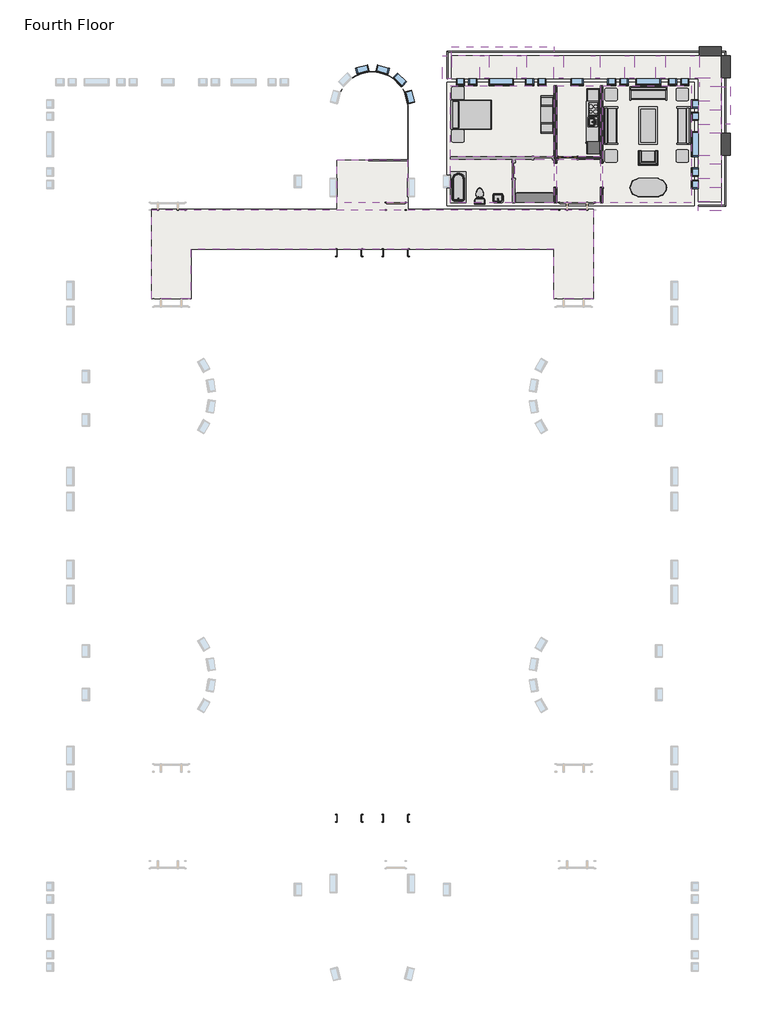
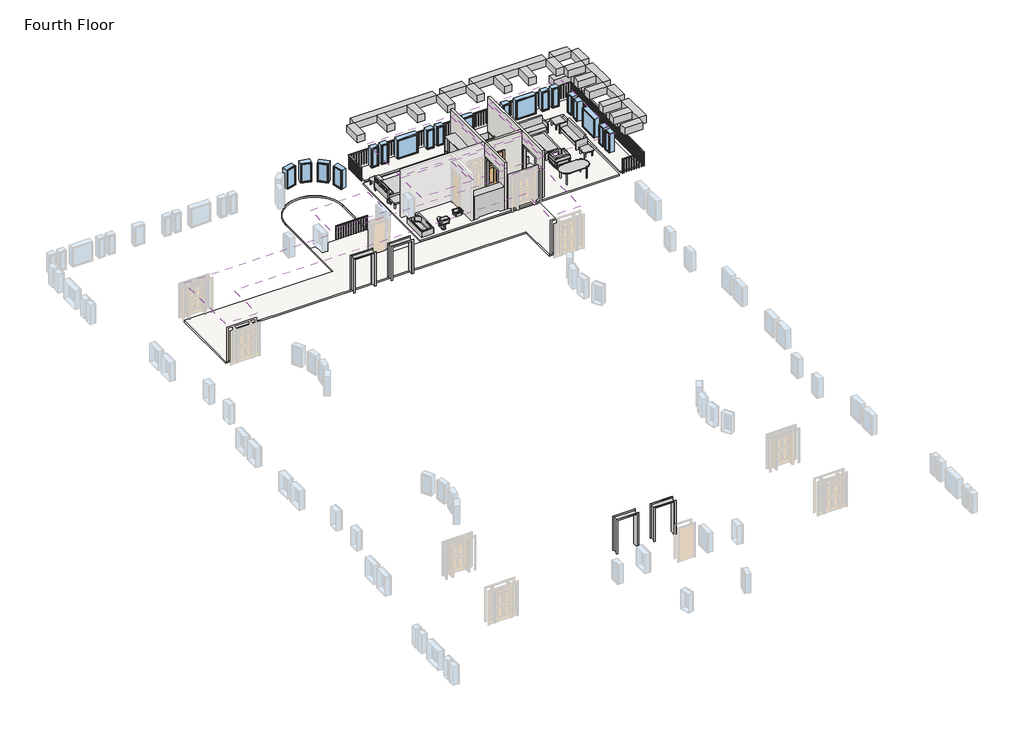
# One storey, part 2 of 2: 20 windows, 19 beams, 15 furniture elements, 8 coverings, 7 proxies, 3 flow terminals, 3 slabs, 3 walls, 3 other elements.
"""IFC4 building model written with IfcOpenShell, lengths in millimetres."""

from ifc_helpers import new_model, si_unit, point, frame, frame_2d, origin, place, context, project, spatial, polyline, circle_curve, trimmed, segment, composite_curve, outline, extrude, faceted_brep, transform, mapped, element, save
from components import proxy_64a468c4, proxy_f44482cc, proxy_c3589814, proxy_1659ed5c, door_829da954, flow_terminal_0aeb31e3, toilet_domestic_3d_toilet_domestic_3d_f7549cf7, toilet_domestic_3d_toilet_domestic_3d_183bbd19, tub_rectangular_3d_tub_rectangular_3d_5e45a89b, furniture_096e7f55, chair_corbu_chair_corbu_2764bdef, furniture_7c473f12, furniture_ddc78764, furniture_4ef38d96, furniture_cd93a443, furniture_2c34a4f9, furniture_3a588284, furniture_1befe2a2, handrail_rectangular_d296d626, handrail_rectangular_3cb95b5f, window_da97879f, window_d61ef850, window_60baf983, window_6eb97611

model = new_model("IFC4")

# Units and contexts
model_context = context("Model", 3, world=origin())
ifc_project = project(units=[si_unit("LENGTHUNIT", "METRE", prefix="MILLI")], contexts=[model_context])

# Site, building, storey
site = spatial("IfcSite", under=ifc_project)
building = spatial("IfcBuilding", under=site)
storey = spatial("IfcBuildingStorey", under=building, Name="Fourth Floor", Elevation=9144.0)

# Beams
placement = place(None, origin())
element("IfcBeam", 1, ObjectType="Concrete-Rectangular Beam : 18 x 18", at=placement, inside=storey, context=model_context, shape_type="Brep", body=[
    faceted_brep([(2093.9410437, 11741.6316867, 12192.0), (2093.9410437, 12198.8316867, 12192.0), (1027.1410437, 12198.8316867, 12192.0), (1027.1410437, 11741.6316867, 12192.0), (2093.9410437, 11741.6316867, 11734.8), (1027.1410437, 11741.6316867, 11734.8), (2093.9410437, 12198.8316867, 11734.8), (1027.1410437, 12198.8316867, 11734.8)], [[[0, 1, 2, 3]], [[4, 0, 3, 5]], [[6, 4, 5, 7]], [[1, 6, 7, 2]], [[1, 0, 4, 6]], [[3, 2, 7, 5]]]),
    faceted_brep([(569.9410437, 12198.8316867, 12192.0), (569.9410437, 11741.6316867, 12192.0), (569.9410437, 11741.6316867, 11734.8), (569.9410437, 12198.8316867, 11734.8), (-3862.3589563, 12198.8316867, 12192.0), (-3862.3589563, 11741.6316867, 12192.0), (-2636.8089563, 11741.6316867, 12192.0), (-2179.6089563, 11741.6316867, 12192.0), (-1112.8089563, 11741.6316867, 12192.0), (-655.6089563, 11741.6316867, 12192.0), (-3862.3589563, 11741.6316867, 11734.8), (-2636.8089563, 11741.6316867, 11734.8), (-2179.6089563, 11741.6316867, 11734.8), (-1112.8089563, 11741.6316867, 11734.8), (-655.6089563, 11741.6316867, 11734.8), (-3862.3589563, 12198.8316867, 11734.8)], [[[0, 1, 2, 3]], [[1, 0, 4, 5, 6, 7, 8, 9]], [[2, 1, 9, 8, 7, 6, 5, 10, 11, 12, 13, 14]], [[3, 2, 14, 13, 12, 11, 10, 15]], [[0, 3, 15, 4]], [[5, 4, 15, 10]]]),
    faceted_brep([(-5665.7589563, 11741.6316867, 12192.0), (-5665.7589563, 12198.8316867, 12192.0), (-5665.7589563, 12198.8316867, 11734.8), (-5665.7589563, 11741.6316867, 11734.8), (-4319.5589563, 12198.8316867, 12192.0), (-4319.5589563, 11741.6316867, 12192.0), (-4319.5589563, 11741.6316867, 11734.8), (-4319.5589563, 12198.8316867, 11734.8)], [[[0, 1, 2, 3]], [[4, 5, 6, 7]], [[1, 0, 5, 4]], [[0, 3, 6, 5]], [[3, 2, 7, 6]], [[2, 1, 4, 7]]]),
    faceted_brep([(-6122.9589563, 12198.8316867, 12192.0), (-6122.9589563, 11741.6316867, 12192.0), (-6122.9589563, 11741.6316867, 11734.8), (-6122.9589563, 12198.8316867, 11734.8), (-11164.8589563, 12198.8316867, 12192.0), (-11164.8589563, 11741.6316867, 12192.0), (-9780.5589563, 11741.6316867, 12192.0), (-9323.3589563, 11741.6316867, 12192.0), (-7951.7589563, 11741.6316867, 12192.0), (-7494.5589563, 11741.6316867, 12192.0), (-11164.8589563, 11741.6316867, 11734.8), (-9780.5589563, 11741.6316867, 11734.8), (-9323.3589563, 11741.6316867, 11734.8), (-7951.7589563, 11741.6316867, 11734.8), (-7494.5589563, 11741.6316867, 11734.8), (-11164.8589563, 12198.8316867, 11734.8)], [[[0, 1, 2, 3]], [[1, 0, 4, 5, 6, 7, 8, 9]], [[2, 1, 9, 8, 7, 6, 5, 10, 11, 12, 13, 14]], [[3, 2, 14, 13, 12, 11, 10, 15]], [[0, 3, 15, 4]], [[5, 4, 15, 10]]]),
])
element("IfcBeam", 2, ObjectType="Concrete-Rectangular Beam : 18 x 18", at=placement, inside=storey, context=model_context, shape_type="Brep", body=[
    faceted_brep([(2551.1410437, 11741.6316867, 12192.0), (2093.9410437, 11741.6316867, 12192.0), (2093.9410437, 10674.8316867, 12192.0), (2551.1410437, 10674.8316867, 12192.0), (2093.9410437, 11741.6316867, 11734.8), (2093.9410437, 10674.8316867, 11734.8), (2551.1410437, 11741.6316867, 11734.8), (2551.1410437, 10674.8316867, 11734.8)], [[[0, 1, 2, 3]], [[1, 4, 5, 2]], [[4, 6, 7, 5]], [[6, 0, 3, 7]], [[4, 1, 0, 6]], [[3, 2, 5, 7]]]),
    faceted_brep([(2551.1410437, 4578.8316867, 12192.0), (2093.9410437, 4578.8316867, 12192.0), (2093.9410437, 4578.8316867, 11734.8), (2551.1410437, 4578.8316867, 11734.8), (2093.9410437, 6407.6316867, 12192.0), (2551.1410437, 6407.6316867, 12192.0), (2551.1410437, 6407.6316867, 11734.8), (2093.9410437, 6407.6316867, 11734.8), (2093.9410437, 5721.8316867, 12192.0), (2093.9410437, 5264.6316867, 12192.0), (2093.9410437, 5721.8316867, 11734.8), (2093.9410437, 5264.6316867, 11734.8)], [[[0, 1, 2, 3]], [[4, 5, 6, 7]], [[1, 0, 5, 4, 8, 9]], [[2, 1, 9, 8, 4, 7, 10, 11]], [[3, 2, 11, 10, 7, 6]], [[0, 3, 6, 5]]]),
    faceted_brep([(2551.1410437, 6864.8316867, 12192.0), (2093.9410437, 6864.8316867, 12192.0), (2093.9410437, 6864.8316867, 11734.8), (2551.1410437, 6864.8316867, 11734.8), (2551.1410437, 7931.6316867, 12192.0), (2093.9410437, 7931.6316867, 12192.0), (2093.9410437, 7931.6316867, 11734.8), (2551.1410437, 7931.6316867, 11734.8)], [[[0, 1, 2, 3]], [[1, 0, 4, 5]], [[2, 1, 5, 6]], [[3, 2, 6, 7]], [[0, 3, 7, 4]], [[5, 4, 7, 6]]]),
    faceted_brep([(2093.9410437, 10217.6316867, 12192.0), (2551.1410437, 10217.6316867, 12192.0), (2551.1410437, 10217.6316867, 11734.8), (2093.9410437, 10217.6316867, 11734.8), (2551.1410437, 8388.8316867, 12192.0), (2093.9410437, 8388.8316867, 12192.0), (2093.9410437, 8388.8316867, 11734.8), (2551.1410437, 8388.8316867, 11734.8), (2093.9410437, 9531.8316867, 12192.0), (2093.9410437, 9074.6316867, 12192.0), (2093.9410437, 9531.8316867, 11734.8), (2093.9410437, 9074.6316867, 11734.8)], [[[0, 1, 2, 3]], [[4, 5, 6, 7]], [[1, 0, 8, 9, 5, 4]], [[0, 3, 10, 11, 6, 5, 9, 8]], [[3, 2, 7, 6, 11, 10]], [[2, 1, 4, 7]]]),
])
element("IfcBeam", 3, ObjectType="Concrete-Rectangular Beam : 18 x 18", at=placement, inside=storey, context=model_context, shape_type="SweptSolid", body=[
    extrude(outline(polyline([(2093.9410437, 12198.8316867), (2093.9410437, 11741.6316867), (1027.1410437, 11741.6316867), (1027.1410437, 12198.8316867), (2093.9410437, 12198.8316867)])), frame((0.0, 0.0, 10210.8), z_axis=(0.0, 0.0, 1.0), x_axis=(1.0, 0.0, 0.0)), (0.0, 0.0, 1.0), 457.2),
])
element("IfcBeam", 4, ObjectType="Concrete-Rectangular Beam : 18 x 18", at=placement, inside=storey, context=model_context, shape_type="SweptSolid", body=[
    extrude(outline(polyline([(2551.1410437, 10674.8316867), (2093.9410437, 10674.8316867), (2093.9410437, 11741.6316867), (2551.1410437, 11741.6316867), (2551.1410437, 10674.8316867)])), frame((0.0, 0.0, 10210.8), z_axis=(0.0, 0.0, 1.0), x_axis=(1.0, 0.0, 0.0)), (0.0, 0.0, 1.0), 457.2),
])
element("IfcBeam", 5, ObjectType="Concrete-Rectangular Beam : 18 x 18", at=placement, inside=storey, context=model_context, shape_type="SweptSolid", body=[
    extrude(outline(polyline([(-11164.8589563, 10624.0316867), (-11622.0589563, 10624.0316867), (-11622.0589563, 11741.6316867), (-11164.8589563, 11741.6316867), (-11164.8589563, 10624.0316867)])), frame((0.0, 0.0, 11734.8), z_axis=(0.0, 0.0, 1.0), x_axis=(1.0, 0.0, 0.0)), (0.0, 0.0, 1.0), 457.2),
])
element("IfcBeam", 6, ObjectType="Concrete-Rectangular Beam : 18 x 18", at=placement, inside=storey, context=model_context, shape_type="SweptSolid", body=[
    extrude(outline(polyline([(-5665.7589563, 10643.0816867), (-6122.9589563, 10643.0816867), (-6122.9589563, 11741.6316867), (-5665.7589563, 11741.6316867), (-5665.7589563, 10643.0816867)])), frame((0.0, 0.0, 11734.8), z_axis=(0.0, 0.0, 1.0), x_axis=(1.0, 0.0, 0.0)), (0.0, 0.0, 1.0), 457.2),
])
element("IfcBeam", 7, ObjectType="Concrete-Rectangular Beam : 18 x 18", at=placement, inside=storey, context=model_context, shape_type="SweptSolid", body=[
    extrude(outline(polyline([(1001.7410437, 6407.6316867), (1001.7410437, 6864.8316867), (2093.9410437, 6864.8316867), (2093.9410437, 6407.6316867), (1001.7410437, 6407.6316867)])), frame((0.0, 0.0, 11734.8), z_axis=(0.0, 0.0, 1.0), x_axis=(1.0, 0.0, 0.0)), (0.0, 0.0, 1.0), 457.2),
])
element("IfcBeam", 8, ObjectType="Concrete-Rectangular Beam : 18 x 18", at=placement, inside=storey, context=model_context, shape_type="SweptSolid", body=[
    extrude(outline(polyline([(-3862.3589563, 10643.0816867), (-4319.5589563, 10643.0816867), (-4319.5589563, 11741.6316867), (-3862.3589563, 11741.6316867), (-3862.3589563, 10643.0816867)])), frame((0.0, 0.0, 11734.8), z_axis=(0.0, 0.0, 1.0), x_axis=(1.0, 0.0, 0.0)), (0.0, 0.0, 1.0), 457.2),
])
element("IfcBeam", 9, ObjectType="Concrete-Rectangular Beam : 18 x 18", at=placement, inside=storey, context=model_context, shape_type="SweptSolid", body=[
    extrude(outline(polyline([(1001.7410437, 7931.6316867), (1001.7410437, 8388.8316867), (2093.9410437, 8388.8316867), (2093.9410437, 7931.6316867), (1001.7410437, 7931.6316867)])), frame((0.0, 0.0, 11734.8), z_axis=(0.0, 0.0, 1.0), x_axis=(1.0, 0.0, 0.0)), (0.0, 0.0, 1.0), 457.2),
])
element("IfcBeam", 10, ObjectType="Concrete-Rectangular Beam : 18 x 18", at=placement, inside=storey, context=model_context, shape_type="SweptSolid", body=[
    extrude(outline(polyline([(976.3410437, 4121.6316867), (976.3410437, 4578.8316867), (2093.9410437, 4578.8316867), (2093.9410437, 4121.6316867), (976.3410437, 4121.6316867)])), frame((0.0, 0.0, 11734.8), z_axis=(0.0, 0.0, 1.0), x_axis=(1.0, 0.0, 0.0)), (0.0, 0.0, 1.0), 457.2),
])
element("IfcBeam", 11, ObjectType="Concrete-Rectangular Beam : 18 x 18", at=placement, inside=storey, context=model_context, shape_type="SweptSolid", body=[
    extrude(outline(polyline([(976.3410437, 5264.6316867), (976.3410437, 5721.8316867), (2093.9410437, 5721.8316867), (2093.9410437, 5264.6316867), (976.3410437, 5264.6316867)])), frame((0.0, 0.0, 11734.8), z_axis=(0.0, 0.0, 1.0), x_axis=(1.0, 0.0, 0.0)), (0.0, 0.0, 1.0), 457.2),
])
element("IfcBeam", 12, ObjectType="Concrete-Rectangular Beam : 18 x 18", at=placement, inside=storey, context=model_context, shape_type="SweptSolid", body=[
    extrude(outline(polyline([(1027.1410437, 10643.0816867), (569.9410437, 10643.0816867), (569.9410437, 11741.6316867), (1027.1410437, 11741.6316867), (1027.1410437, 10643.0816867)])), frame((0.0, 0.0, 11734.8), z_axis=(0.0, 0.0, 1.0), x_axis=(1.0, 0.0, 0.0)), (0.0, 0.0, 1.0), 457.2),
])
element("IfcBeam", 13, ObjectType="Concrete-Rectangular Beam : 18 x 18", at=placement, inside=storey, context=model_context, shape_type="SweptSolid", body=[
    extrude(outline(polyline([(1052.5410437, 10217.6316867), (1052.5410437, 10674.8316867), (2093.9410437, 10674.8316867), (2093.9410437, 10217.6316867), (1052.5410437, 10217.6316867)])), frame((0.0, 0.0, 11734.8), z_axis=(0.0, 0.0, 1.0), x_axis=(1.0, 0.0, 0.0)), (0.0, 0.0, 1.0), 457.2),
])
element("IfcBeam", 14, ObjectType="Concrete-Rectangular Beam : 18 x 18", at=placement, inside=storey, context=model_context, shape_type="SweptSolid", body=[
    extrude(outline(polyline([(1001.7410437, 9074.6316867), (1001.7410437, 9531.8316867), (2093.9410437, 9531.8316867), (2093.9410437, 9074.6316867), (1001.7410437, 9074.6316867)])), frame((0.0, 0.0, 11734.8), z_axis=(0.0, 0.0, 1.0), x_axis=(1.0, 0.0, 0.0)), (0.0, 0.0, 1.0), 457.2),
])
element("IfcBeam", 15, ObjectType="Concrete-Rectangular Beam : 18 x 18", at=placement, inside=storey, context=model_context, shape_type="SweptSolid", body=[
    extrude(outline(polyline([(-2179.6089563, 10643.0816867), (-2636.8089563, 10643.0816867), (-2636.8089563, 11741.6316867), (-2179.6089563, 11741.6316867), (-2179.6089563, 10643.0816867)])), frame((0.0, 0.0, 11734.8), z_axis=(0.0, 0.0, 1.0), x_axis=(1.0, 0.0, 0.0)), (0.0, 0.0, 1.0), 457.2),
])
element("IfcBeam", 16, ObjectType="Concrete-Rectangular Beam : 18 x 18", at=placement, inside=storey, context=model_context, shape_type="SweptSolid", body=[
    extrude(outline(polyline([(-655.6089563, 10643.0816867), (-1112.8089563, 10643.0816867), (-1112.8089563, 11741.6316867), (-655.6089563, 11741.6316867), (-655.6089563, 10643.0816867)])), frame((0.0, 0.0, 11734.8), z_axis=(0.0, 0.0, 1.0), x_axis=(1.0, 0.0, 0.0)), (0.0, 0.0, 1.0), 457.2),
])
element("IfcBeam", 17, ObjectType="Concrete-Rectangular Beam : 18 x 18", at=placement, inside=storey, context=model_context, shape_type="SweptSolid", body=[
    extrude(outline(polyline([(-7494.5589563, 10643.0816867), (-7951.7589563, 10643.0816867), (-7951.7589563, 11741.6316867), (-7494.5589563, 11741.6316867), (-7494.5589563, 10643.0816867)])), frame((0.0, 0.0, 11734.8), z_axis=(0.0, 0.0, 1.0), x_axis=(1.0, 0.0, 0.0)), (0.0, 0.0, 1.0), 457.2),
])
element("IfcBeam", 18, ObjectType="Concrete-Rectangular Beam : 18 x 18", at=placement, inside=storey, context=model_context, shape_type="SweptSolid", body=[
    extrude(outline(polyline([(-9323.3589563, 10643.0816867), (-9780.5589563, 10643.0816867), (-9780.5589563, 11741.6316867), (-9323.3589563, 11741.6316867), (-9323.3589563, 10643.0816867)])), frame((0.0, 0.0, 11734.8), z_axis=(0.0, 0.0, 1.0), x_axis=(1.0, 0.0, 0.0)), (0.0, 0.0, 1.0), 457.2),
])
element("IfcBeam", 19, ObjectType="Concrete-Rectangular Beam : 18 x 18", at=placement, inside=storey, context=model_context, shape_type="SweptSolid", body=[
    extrude(outline(polyline([(2551.1410437, 6864.8316867), (2093.9410437, 6864.8316867), (2093.9410437, 7931.6316867), (2551.1410437, 7931.6316867), (2551.1410437, 6864.8316867)])), frame((0.0, 0.0, 10210.8), z_axis=(0.0, 0.0, 1.0), x_axis=(1.0, 0.0, 0.0)), (0.0, 0.0, 1.0), 457.2),
])

# Proxies
proxy_shape = proxy_64a468c4(model_context)
element("IfcBuildingElementProxy", 20, Name="Kitchenette - Medium : 8'6\"", ObjectType="Kitchenette - Medium : 8'6\"", at=placement, inside=storey, context=model_context, shape_type="MappedRepresentation", body=[
    mapped(proxy_shape, transform((-3887.7589563, 8837.7956433, 9144.0), x_axis=(0.0, -1.0, 0.0), y_axis=(1.0, 0.0, 0.0), z_axis=(0.0, 0.0, 1.0))),
])
proxy_2_shape = proxy_f44482cc(model_context)
element("IfcBuildingElementProxy", 21, Name="Opening-Cased : 48\" x 84\"", ObjectType="Opening-Cased : 48\" x 84\"", at=placement, inside=storey, context=model_context, shape_type="MappedRepresentation", body=[
    mapped(proxy_2_shape, transform((-3773.4589563, 5882.4203434, 9144.0), x_axis=(0.0, 1.0, 0.0), y_axis=(-1.0, 0.0, 0.0), z_axis=(0.0, 0.0, 1.0))),
])
element("IfcBuildingElementProxy", 22, Name="Opening-Cased : 48\" x 84\"", ObjectType="Opening-Cased : 48\" x 84\"", at=placement, inside=storey, context=model_context, shape_type="MappedRepresentation", body=[
    mapped(proxy_2_shape, transform((-6059.4589563, 5866.04303, 9144.0), x_axis=(0.0, -1.0, 0.0), y_axis=(1.0, 0.0, 0.0), z_axis=(0.0, 0.0, 1.0))),
])
proxy_3_shape = proxy_c3589814(model_context)
element("IfcBuildingElementProxy", 23, Name="Opening-Cased : 48\" x 84\"", ObjectType="Opening-Cased : 48\" x 84\"", at=placement, inside=storey, context=model_context, shape_type="MappedRepresentation", body=[
    mapped(proxy_3_shape, transform((-16213.360113, 2064.2316867, 9144.0), x_axis=(-1.0, 0.0, 0.0), y_axis=(0.0, -1.0, 0.0), z_axis=(0.0, 0.0, 1.0))),
])
element("IfcBuildingElementProxy", 24, Name="Opening-Cased : 48\" x 84\"", ObjectType="Opening-Cased : 48\" x 84\"", at=placement, inside=storey, context=model_context, shape_type="MappedRepresentation", body=[
    mapped(proxy_3_shape, transform((-13927.360113, 2064.2316867, 9144.0), x_axis=(-1.0, 0.0, 0.0), y_axis=(0.0, -1.0, 0.0), z_axis=(0.0, 0.0, 1.0))),
])
proxy_4_shape = proxy_1659ed5c(model_context)
element("IfcBuildingElementProxy", 25, Name="Opening-Cased : 48\" x 84\"", ObjectType="Opening-Cased : 48\" x 84\"", at=placement, inside=storey, context=model_context, shape_type="MappedRepresentation", body=[
    mapped(proxy_4_shape, transform((-16213.360113, -25755.1183133, 9144.0), x_axis=(-1.0, 0.0, 0.0), y_axis=(0.0, -1.0, 0.0), z_axis=(0.0, 0.0, 1.0))),
])
element("IfcBuildingElementProxy", 26, Name="Opening-Cased : 48\" x 84\"", ObjectType="Opening-Cased : 48\" x 84\"", at=placement, inside=storey, context=model_context, shape_type="MappedRepresentation", body=[
    mapped(proxy_4_shape, transform((-13927.360113, -25755.1183133, 9144.0), x_axis=(-1.0, 0.0, 0.0), y_axis=(0.0, -1.0, 0.0), z_axis=(0.0, 0.0, 1.0))),
])

# Coverings
element("IfcCovering", 27, ObjectType="GWB on Mtl. Stud", at=placement, inside=storey, context=model_context, shape_type="SweptSolid", body=[
    extrude(outline(polyline([(-11217.2464563, 10270.0191867), (-6122.9589563, 10270.0191867), (-6122.9589563, 6787.0441867), (-11217.2464563, 6787.0441867), (-11217.2464563, 10270.0191867)])), frame((0.0, 0.0, 11734.8), z_axis=(0.0, 0.0, 1.0), x_axis=(1.0, 0.0, 0.0)), (0.0, 0.0, 1.0), 107.95),
])
element("IfcCovering", 28, ObjectType="GWB on Mtl. Stud", at=placement, inside=storey, context=model_context, shape_type="SweptSolid", body=[
    extrude(outline(polyline([(-5995.9589563, 6787.0441867), (-5995.9589563, 10270.0191867), (-3836.9589563, 10270.0191867), (-3836.9589563, 6787.0441867), (-5995.9589563, 6787.0441867)])), frame((0.0, 0.0, 11734.8), z_axis=(0.0, 0.0, 1.0), x_axis=(1.0, 0.0, 0.0)), (0.0, 0.0, 1.0), 107.95),
])
element("IfcCovering", 29, ObjectType="GWB on Mtl. Stud", at=placement, inside=storey, context=model_context, shape_type="SweptSolid", body=[
    extrude(outline(polyline([(-3709.9589563, 4526.4441867), (-3709.9589563, 10270.0191867), (622.3285437, 10270.0191867), (622.3285437, 4526.4441867), (-3709.9589563, 4526.4441867)])), frame((0.0, 0.0, 11734.8), z_axis=(0.0, 0.0, 1.0), x_axis=(1.0, 0.0, 0.0)), (0.0, 0.0, 1.0), 107.95),
])
element("IfcCovering", 30, ObjectType="GWB on Mtl. Stud", at=placement, inside=storey, context=model_context, shape_type="SweptSolid", body=[
    extrude(outline(polyline([(-3836.9589563, 4526.4441867), (-5995.9589563, 4526.4441867), (-5995.9589563, 6660.0441867), (-3836.9589563, 6660.0441867), (-3836.9589563, 4526.4441867)])), frame((0.0, 0.0, 11734.8), z_axis=(0.0, 0.0, 1.0), x_axis=(1.0, 0.0, 0.0)), (0.0, 0.0, 1.0), 107.95),
])
element("IfcCovering", 31, ObjectType="GWB on Mtl. Stud", at=placement, inside=storey, context=model_context, shape_type="SweptSolid", body=[
    extrude(outline(polyline([(-6122.9589563, 4526.4441867), (-8042.2464563, 4526.4441867), (-8042.2464563, 6660.0441867), (-6122.9589563, 6660.0441867), (-6122.9589563, 4526.4441867)])), frame((0.0, 0.0, 11734.8), z_axis=(0.0, 0.0, 1.0), x_axis=(1.0, 0.0, 0.0)), (0.0, 0.0, 1.0), 107.95),
])
element("IfcCovering", 32, ObjectType="GWB on Mtl. Stud", at=placement, inside=storey, context=model_context, shape_type="SweptSolid", body=[
    extrude(outline(polyline([(-8169.2464563, 6660.0441867), (-8169.2464563, 4526.4441867), (-11217.2464563, 4526.4441867), (-11217.2464563, 6660.0441867), (-8169.2464563, 6660.0441867)])), frame((0.0, 0.0, 11734.8), z_axis=(0.0, 0.0, 1.0), x_axis=(1.0, 0.0, 0.0)), (0.0, 0.0, 1.0), 107.95),
])
element("IfcCovering", 33, ObjectType="GWB on Mtl. Stud", at=placement, inside=storey, context=model_context, shape_type="SweptSolid", body=[
    extrude(outline(polyline([(-13333.3839563, 4526.4441867), (-16790.9589563, 4526.4441867), (-16790.9589563, 6636.2316867), (-13333.3839563, 6636.2316867), (-13333.3839563, 4526.4441867)])), frame((0.0, 0.0, 11582.4), z_axis=(0.0, 0.0, 1.0), x_axis=(1.0, 0.0, 0.0)), (0.0, 0.0, 1.0), 107.95),
])
element("IfcCovering", 34, ObjectType="GWB on Mtl. Stud", at=placement, inside=storey, context=model_context, shape_type="SweptSolid", body=[
    extrude(outline(polyline([(-6122.9589563, -197.9558133), (-6122.9589563, 2240.4441867), (-24001.3839563, 2240.4441867), (-24001.3839563, -197.9558133), (-25934.9589563, -197.9558133), (-25934.9589563, 4174.0191867), (-4189.3839563, 4174.0191867), (-4189.3839563, -197.9558133), (-6122.9589563, -197.9558133)])), frame((0.0, 0.0, 11582.4), z_axis=(0.0, 0.0, 1.0), x_axis=(1.0, 0.0, 0.0)), (0.0, 0.0, 1.0), 107.95),
])

# Door
door_shape = door_829da954(model_context)
element("IfcDoor", 35, ObjectType="Single-Decorative 2 : 36\" x 84\"", at=placement, inside=storey, context=model_context, shape_type="MappedRepresentation", body=[
    mapped(door_shape, transform((-5449.8589563, 6723.5441867, 9144.0), x_axis=(-1.0, 0.0, 0.0), y_axis=(0.0, -1.0, 0.0), z_axis=(0.0, 0.0, 1.0))),
])

# Flow terminals
flow_terminal_shape = flow_terminal_0aeb31e3(model_context)
element("IfcFlowTerminal", 36, ObjectType="Sink Vanity-Square : 24\" x 19\"", at=placement, inside=storey, context=model_context, shape_type="MappedRepresentation", body=[
    mapped(flow_terminal_shape, transform((-8864.7572157, 4706.5895878, 9144.0), x_axis=(-1.0, 0.0, 0.0), y_axis=(0.0, -1.0, 0.0), z_axis=(0.0, 0.0, 1.0))),
])
toilet_domestic_3d_toilet_domestic_3d_shape = toilet_domestic_3d_toilet_domestic_3d_f7549cf7(model_context)
toilet_domestic_3d_toilet_domestic_3d_2_shape = toilet_domestic_3d_toilet_domestic_3d_183bbd19(model_context)
element("IfcFlowTerminal", 37, ObjectType="Toilet-Domestic-3D : Toilet-Domestic-3D", at=placement, inside=storey, context=model_context, shape_type="MappedRepresentation", body=[
    mapped(toilet_domestic_3d_toilet_domestic_3d_shape, transform((-9782.1466587, 4940.866411, 9144.0), x_axis=(-1.0000000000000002, 0.0, 0.0), y_axis=(0.0, -1.0000000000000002, 0.0), z_axis=(0.0, 0.0, 1.0))),
    mapped(toilet_domestic_3d_toilet_domestic_3d_2_shape, transform((-9782.1466587, 4940.866411, 9144.0), x_axis=(-1.0000000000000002, 0.0, 0.0), y_axis=(0.0, -1.0000000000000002, 0.0), z_axis=(0.0, 0.0, 1.0))),
])
tub_rectangular_3d_tub_rectangular_3d_shape = tub_rectangular_3d_tub_rectangular_3d_5e45a89b(model_context)
element("IfcFlowTerminal", 38, ObjectType="Tub-Rectangular-3D : Tub-Rectangular-3D", at=placement, inside=storey, context=model_context, shape_type="MappedRepresentation", body=[
    mapped(tub_rectangular_3d_tub_rectangular_3d_shape, transform((-11393.4589563, 5637.0471554, 9144.0), x_axis=(0.0, 1.0, 0.0), y_axis=(-1.0, 0.0, 0.0), z_axis=(0.0, 0.0, 1.0))),
])

# Furniture
furniture_shape = furniture_096e7f55(model_context)
element("IfcFurniture", 39, ObjectType="Bed-Shaker : Double 56\" x 78\"", at=placement, inside=storey, context=model_context, shape_type="MappedRepresentation", body=[
    mapped(furniture_shape, transform((-11183.1982802, 8871.8755561, 9144.0), x_axis=(0.0, 1.0, 0.0), y_axis=(-1.0, 0.0, 0.0), z_axis=(0.0, 0.0, 1.0))),
])
chair_corbu_chair_corbu_shape = chair_corbu_chair_corbu_2764bdef(model_context)
element("IfcFurniture", 40, ObjectType="Chair-Corbu : Chair-Corbu", at=placement, inside=storey, context=model_context, shape_type="MappedRepresentation", body=[
    mapped(chair_corbu_chair_corbu_shape, transform((-914.0851858, 7193.4962359, 9144.0), x_axis=(-1.0, 0.0, 0.0), y_axis=(0.0, -1.0, 0.0), z_axis=(0.0, 0.0, 1.0))),
])
furniture_2_shape = furniture_7c473f12(model_context)
element("IfcFurniture", 41, ObjectType="Dresser : 72\" x 60\" x 18\"", at=placement, inside=storey, context=model_context, shape_type="MappedRepresentation", body=[
    mapped(furniture_2_shape, transform((-7344.6522161, 4404.5812326, 9144.0), x_axis=(-1.0, 0.0, 0.0), y_axis=(0.0, -1.0, 0.0), z_axis=(0.0, 0.0, 1.0))),
])
furniture_3_shape = furniture_ddc78764(model_context)
element("IfcFurniture", 42, ObjectType="Entertainment Center : 72\" x 72\" x 24\"", at=placement, inside=storey, context=model_context, shape_type="MappedRepresentation", body=[
    mapped(furniture_3_shape, transform((-6059.4589563, 8852.8255561, 9144.0), x_axis=(0.0, -1.0, 0.0), y_axis=(1.0, 0.0, 0.0), z_axis=(0.0, 0.0, 1.0))),
])
furniture_4_shape = furniture_4ef38d96(model_context)
element("IfcFurniture", 43, ObjectType="Sofa : 72\"", at=placement, inside=storey, context=model_context, shape_type="MappedRepresentation", body=[
    mapped(furniture_4_shape, transform((-1557.8294481, 9741.2775883, 9144.0), x_axis=(1.0, 0.0, 0.0), y_axis=(0.0, 1.0, 0.0), z_axis=(0.0, 0.0, 1.0))),
])
element("IfcFurniture", 44, ObjectType="Sofa : 72\"", at=placement, inside=storey, context=model_context, shape_type="MappedRepresentation", body=[
    mapped(furniture_4_shape, transform((93.5869453, 8383.0021785, 9144.0), x_axis=(0.0, -1.0, 0.0), y_axis=(1.0, 0.0, 0.0), z_axis=(0.0, 0.0, 1.0))),
])
element("IfcFurniture", 45, ObjectType="Sofa : 72\"", at=placement, inside=storey, context=model_context, shape_type="MappedRepresentation", body=[
    mapped(furniture_4_shape, transform((-3170.104858, 8242.2611949, 9144.0), x_axis=(0.0, 1.0, 0.0), y_axis=(-1.0, 0.0, 0.0), z_axis=(0.0, 0.0, 1.0))),
])
furniture_5_shape = furniture_cd93a443(model_context)
element("IfcFurniture", 46, ObjectType="Table-Coffee : 36\" x 72\" x 18\"", at=placement, inside=storey, context=model_context, shape_type="MappedRepresentation", body=[
    mapped(furniture_5_shape, transform((-1582.6700341, 8330.8974534, 9144.0), x_axis=(0.0, -1.0, 0.0), y_axis=(1.0, 0.0, 0.0), z_axis=(0.0, 0.0, 1.0))),
])
furniture_6_shape = furniture_2c34a4f9(model_context)
element("IfcFurniture", 47, ObjectType="Table-Dining Oval : 36\" x 72\"", at=placement, inside=storey, context=model_context, shape_type="MappedRepresentation", body=[
    mapped(furniture_6_shape, transform((-1085.6392842, 5622.7300473, 9144.0), x_axis=(1.0, 0.0, 0.0), y_axis=(0.0, 1.0, 0.0), z_axis=(0.0, 0.0, 1.0))),
])
furniture_7_shape = furniture_3a588284(model_context)
element("IfcFurniture", 48, ObjectType="Table-End : 24\" x 24\"", at=placement, inside=storey, context=model_context, shape_type="MappedRepresentation", body=[
    mapped(furniture_7_shape, transform((-119.5925866, 9684.2316867, 9144.0), x_axis=(1.0, 0.0, 0.0), y_axis=(0.0, 1.0, 0.0), z_axis=(0.0, 0.0, 1.0))),
])
element("IfcFurniture", 49, ObjectType="Table-End : 24\" x 24\"", at=placement, inside=storey, context=model_context, shape_type="MappedRepresentation", body=[
    mapped(furniture_7_shape, transform((-3624.7925866, 9684.2316867, 9144.0), x_axis=(1.0, 0.0, 0.0), y_axis=(0.0, 1.0, 0.0), z_axis=(0.0, 0.0, 1.0))),
])
element("IfcFurniture", 50, ObjectType="Table-End : 24\" x 24\"", at=placement, inside=storey, context=model_context, shape_type="MappedRepresentation", body=[
    mapped(furniture_7_shape, transform((-3624.7925866, 6660.0441867, 9144.0), x_axis=(1.0, 0.0, 0.0), y_axis=(0.0, 1.0, 0.0), z_axis=(0.0, 0.0, 1.0))),
])
element("IfcFurniture", 51, ObjectType="Table-End : 24\" x 24\"", at=placement, inside=storey, context=model_context, shape_type="MappedRepresentation", body=[
    mapped(furniture_7_shape, transform((-119.5925866, 6660.0441867, 9144.0), x_axis=(1.0, 0.0, 0.0), y_axis=(0.0, 1.0, 0.0), z_axis=(0.0, 0.0, 1.0))),
])
element("IfcFurniture", 52, ObjectType="Table-End : 24\" x 24\"", at=placement, inside=storey, context=model_context, shape_type="MappedRepresentation", body=[
    mapped(furniture_7_shape, transform((-11164.2346356, 9756.0737357, 9144.0), x_axis=(1.0, 0.0, 0.0), y_axis=(0.0, 1.0, 0.0), z_axis=(0.0, 0.0, 1.0))),
])
furniture_8_shape = furniture_1befe2a2(model_context)
element("IfcFurniture", 53, ObjectType="Table-End : 24\" x 24\"", at=placement, inside=storey, context=model_context, shape_type="MappedRepresentation", body=[
    mapped(furniture_8_shape, transform((-11164.2346356, 7949.5773764, 9144.0), x_axis=(1.0, 0.0, 0.0), y_axis=(0.0, 1.0, 0.0), z_axis=(0.0, 0.0, 1.0))),
])

# Railings
handrail_rectangular_shape = handrail_rectangular_d296d626(model_context)
element("IfcRailing", 54, ObjectType="Handrail - Rectangular", at=placement, inside=storey, context=model_context, shape_type="MappedRepresentation", body=[
    mapped(handrail_rectangular_shape, transform((0.0, 0.0, 0.0), x_axis=(1.0, 0.0, 0.0), y_axis=(0.0, 1.0, 0.0), z_axis=(0.0, 0.0, 1.0))),
])
handrail_rectangular_2_shape = handrail_rectangular_3cb95b5f(model_context)
element("IfcRailing", 55, ObjectType="Handrail - Rectangular", at=placement, inside=storey, context=model_context, shape_type="MappedRepresentation", body=[
    mapped(handrail_rectangular_2_shape, transform((0.0, 0.0, 0.0), x_axis=(1.0, 0.0, 0.0), y_axis=(0.0, 1.0, 0.0), z_axis=(0.0, 0.0, 1.0))),
])

# Slabs
element("IfcSlab", 56, ObjectType="LW Concrete on Metal Deck", at=placement, inside=storey, context=model_context, shape_type="SweptSolid", body=[
    extrude(outline(polyline([(787.4285437, 10435.1191867), (787.4285437, 4361.3441867), (-11382.3464563, 4361.3441867), (-11382.3464563, 10435.1191867), (787.4285437, 10435.1191867)])), frame((0.0, 0.0, 9039.225), z_axis=(0.0, 0.0, 1.0), x_axis=(1.0, 0.0, 0.0)), (0.0, 0.0, 1.0), 104.775),
])
element("IfcSlab", 57, ObjectType="LW Concrete on Metal Deck", at=placement, inside=storey, context=model_context, shape_type="SweptSolid", body=[
    extrude(outline(polyline([(-11164.8589563, 11741.6316867), (2093.9410437, 11741.6316867), (2093.9410437, 4578.8316867), (974.7535437, 4578.8316867), (974.7535437, 10622.4441867), (-11164.8589563, 10622.4441867), (-11164.8589563, 11741.6316867)])), frame((0.0, 0.0, 9039.225), z_axis=(0.0, 0.0, 1.0), x_axis=(1.0, 0.0, 0.0)), (0.0, 0.0, 1.0), 104.775),
])
element("IfcSlab", 58, ObjectType="LW Concrete on Metal Deck", at=placement, inside=storey, context=model_context, shape_type="SweptSolid", body=[
    extrude(outline(composite_curve([segment(polyline([(-13320.6839563, 9227.0316867), (-13320.6839563, 4186.7191867), (-4189.3839563, 4186.7191867), (-4189.3839563, -197.9558133), (-6135.6589563, -197.9558133), (-6135.6589563, 2227.7441867), (-23988.6839563, 2227.7441867), (-23988.6839563, -197.9558133), (-25934.9589563, -197.9558133), (-25934.9589563, 4186.7191867), (-16803.6589563, 4186.7191867), (-16803.6589563, 9227.0316867)]), True, "CONTINUOUS"), segment(trimmed(circle_curve(frame_2d((-15062.1714563, 9227.0316867)), 1741.4875), [point((-16803.6589563, 9227.0316867))], [point((-13320.6839563, 9227.0316867))], False, "CARTESIAN"), True, "CONTINUOUS")], self_intersect=False), holes=[composite_curve([segment(polyline([(-16790.9589563, 6636.2316867), (-13333.3839563, 6636.2316867), (-13333.3839563, 9227.0316867)]), True, "CONTINUOUS"), segment(trimmed(circle_curve(frame_2d((-15062.1714563, 9227.0316867)), 1728.7875), [point((-13333.3839563, 9227.0316867))], [point((-16790.9589563, 9227.0316867))], True, "CARTESIAN"), True, "CONTINUOUS"), segment(polyline([(-16790.9589563, 9227.0316867), (-16790.9589563, 6636.2316867)]), True, "CONTINUOUS")], self_intersect=False)]), frame((0.0, 0.0, 9039.225), z_axis=(0.0, 0.0, 1.0), x_axis=(1.0, 0.0, 0.0)), (0.0, 0.0, 1.0), 104.775),
])

# Walls
element("IfcWall", 59, ObjectType="Interior - 5\" Partition (2-hr)", at=placement, inside=storey, context=model_context, shape_type="Brep", body=[
    faceted_brep([(-3836.9589563, 10270.0191867, 9144.0), (-3836.9589563, 6787.0441867, 9144.0), (-3836.9589563, 6660.0441867, 9144.0), (-3836.9589563, 6483.8316867, 9144.0), (-3836.9589563, 6483.8316867, 11277.6), (-3836.9589563, 5264.6316867, 11277.6), (-3836.9589563, 5264.6316867, 9144.0), (-3836.9589563, 4526.4441867, 9144.0), (-3836.9589563, 4526.4441867, 12192.0), (-3836.9589563, 6660.0441867, 12192.0), (-3836.9589563, 6787.0441867, 12192.0), (-3836.9589563, 10270.0191867, 12192.0), (-3709.9589563, 6483.8316867, 11277.6), (-3709.9589563, 6483.8316867, 9144.0), (-3709.9589563, 10270.0191867, 9144.0), (-3709.9589563, 10270.0191867, 12192.0), (-3709.9589563, 4526.4441867, 12192.0), (-3709.9589563, 4526.4441867, 9144.0), (-3709.9589563, 5264.6316867, 9144.0), (-3709.9589563, 5264.6316867, 11277.6)], [[[0, 1, 2, 3, 4, 5, 6, 7, 8, 9, 10, 11]], [[12, 13, 14, 15, 16, 17, 18, 19]], [[14, 13, 3, 2, 1, 0]], [[18, 17, 7, 6]], [[11, 10, 9, 8, 16, 15]], [[0, 11, 15, 14]], [[8, 7, 17, 16]], [[6, 5, 19, 18]], [[4, 3, 13, 12]], [[5, 4, 12, 19]]]),
])
element("IfcWall", 60, ObjectType="Interior - 5\" Partition (2-hr)", at=placement, inside=storey, context=model_context, shape_type="Brep", body=[
    faceted_brep([(-6122.9589563, 5264.6316867, 11277.6), (-6122.9589563, 5264.6316867, 9144.0), (-6122.9589563, 4526.4441867, 9144.0), (-6122.9589563, 4526.4441867, 12192.0), (-6122.9589563, 6660.0441867, 12192.0), (-6122.9589563, 6787.0441867, 12192.0), (-6122.9589563, 10270.0191867, 12192.0), (-6122.9589563, 10270.0191867, 9144.0), (-6122.9589563, 6787.0441867, 9144.0), (-6122.9589563, 6660.0441867, 9144.0), (-6122.9589563, 6483.8316867, 9144.0), (-6122.9589563, 6483.8316867, 11277.6), (-5995.9589563, 4526.4441867, 9144.0), (-5995.9589563, 5264.6316867, 9144.0), (-5995.9589563, 5264.6316867, 11277.6), (-5995.9589563, 6483.8316867, 11277.6), (-5995.9589563, 6483.8316867, 9144.0), (-5995.9589563, 6660.0441867, 9144.0), (-5995.9589563, 6787.0441867, 9144.0), (-5995.9589563, 10270.0191867, 9144.0), (-5995.9589563, 10270.0191867, 12192.0), (-5995.9589563, 6787.0441867, 12192.0), (-5995.9589563, 6660.0441867, 12192.0), (-5995.9589563, 4526.4441867, 12192.0)], [[[0, 1, 2, 3, 4, 5, 6, 7, 8, 9, 10, 11]], [[12, 13, 14, 15, 16, 17, 18, 19, 20, 21, 22, 23]], [[2, 1, 13, 12]], [[10, 9, 8, 7, 19, 18, 17, 16]], [[6, 5, 4, 3, 23, 22, 21, 20]], [[7, 6, 20, 19]], [[3, 2, 12, 23]], [[16, 15, 11, 10]], [[14, 13, 1, 0]], [[15, 14, 0, 11]]]),
])
element("IfcWall", 61, ObjectType="Interior - 5\" Partition (2-hr)", at=placement, inside=storey, context=model_context, shape_type="SweptSolid", body=[
    extrude(outline(polyline([(9144.0, -5995.9589563), (9144.0, -5907.0589563), (11277.6, -5907.0589563), (11277.6, -4992.6589563), (9144.0, -4992.6589563), (9144.0, -3836.9589563), (12192.0, -3836.9589563), (12192.0, -5995.9589563), (9144.0, -5995.9589563)])), frame((0.0, 6660.0441867, 0.0), z_axis=(0.0, 1.0, 0.0), x_axis=(0.0, 0.0, 1.0)), (0.0, 0.0, 1.0), 127.0),
])

# Windows
window_shape = window_da97879f(model_context)
element("IfcWindow", 62, ObjectType="Fixed : 16\" x 48\"", at=placement, inside=storey, context=model_context, shape_type="MappedRepresentation", body=[
    mapped(window_shape, transform((-10771.1589563, 10446.2316867, 9144.0), x_axis=(-1.0, 0.0, 0.0), y_axis=(0.0, -1.0, 0.0), z_axis=(0.0, 0.0, 1.0))),
])
element("IfcWindow", 63, ObjectType="Fixed : 16\" x 48\"", at=placement, inside=storey, context=model_context, shape_type="MappedRepresentation", body=[
    mapped(window_shape, transform((-10161.5589563, 10446.2316867, 9144.0), x_axis=(-1.0, 0.0, 0.0), y_axis=(0.0, -1.0, 0.0), z_axis=(0.0, 0.0, 1.0))),
])
element("IfcWindow", 64, ObjectType="Fixed : 16\" x 48\"", at=placement, inside=storey, context=model_context, shape_type="MappedRepresentation", body=[
    mapped(window_shape, transform((-3328.9589563, 10446.2316867, 9144.0), x_axis=(-1.0, 0.0, 0.0), y_axis=(0.0, -1.0, 0.0), z_axis=(0.0, 0.0, 1.0))),
])
element("IfcWindow", 65, ObjectType="Fixed : 16\" x 48\"", at=placement, inside=storey, context=model_context, shape_type="MappedRepresentation", body=[
    mapped(window_shape, transform((-2719.3589563, 10446.2316867, 9144.0), x_axis=(-1.0, 0.0, 0.0), y_axis=(0.0, -1.0, 0.0), z_axis=(0.0, 0.0, 1.0))),
])
element("IfcWindow", 66, ObjectType="Fixed : 16\" x 48\"", at=placement, inside=storey, context=model_context, shape_type="MappedRepresentation", body=[
    mapped(window_shape, transform((798.5410437, 9417.5316867, 9144.0), x_axis=(0.0, 1.0, 0.0), y_axis=(-1.0, 0.0, 0.0), z_axis=(0.0, 0.0, 1.0))),
])
element("IfcWindow", 67, ObjectType="Fixed : 16\" x 48\"", at=placement, inside=storey, context=model_context, shape_type="MappedRepresentation", body=[
    mapped(window_shape, transform((798.5410437, 8807.9316867, 9144.0), x_axis=(0.0, 1.0, 0.0), y_axis=(-1.0, 0.0, 0.0), z_axis=(0.0, 0.0, 1.0))),
])
window_2_shape = window_d61ef850(model_context)
element("IfcWindow", 68, ObjectType="Fixed : 16\" x 48\"", at=placement, inside=storey, context=model_context, shape_type="MappedRepresentation", body=[
    mapped(window_2_shape, transform((-6681.7589563, 10446.2316867, 9144.0), x_axis=(1.0, 0.0, 0.0), y_axis=(0.0, 1.0, 0.0), z_axis=(0.0, 0.0, 1.0))),
])
element("IfcWindow", 69, ObjectType="Fixed : 16\" x 48\"", at=placement, inside=storey, context=model_context, shape_type="MappedRepresentation", body=[
    mapped(window_2_shape, transform((-7291.3589563, 10446.2316867, 9144.0), x_axis=(1.0, 0.0, 0.0), y_axis=(0.0, 1.0, 0.0), z_axis=(0.0, 0.0, 1.0))),
])
element("IfcWindow", 70, ObjectType="Fixed : 16\" x 48\"", at=placement, inside=storey, context=model_context, shape_type="MappedRepresentation", body=[
    mapped(window_2_shape, transform((354.0410437, 10446.2316867, 9144.0), x_axis=(1.0, 0.0, 0.0), y_axis=(0.0, 1.0, 0.0), z_axis=(0.0, 0.0, 1.0))),
])
element("IfcWindow", 71, ObjectType="Fixed : 16\" x 48\"", at=placement, inside=storey, context=model_context, shape_type="MappedRepresentation", body=[
    mapped(window_2_shape, transform((-255.5589563, 10446.2316867, 9144.0), x_axis=(1.0, 0.0, 0.0), y_axis=(0.0, 1.0, 0.0), z_axis=(0.0, 0.0, 1.0))),
])
element("IfcWindow", 72, ObjectType="Fixed : 16\" x 48\"", at=placement, inside=storey, context=model_context, shape_type="MappedRepresentation", body=[
    mapped(window_2_shape, transform((798.5410437, 5378.9316867, 9144.0), x_axis=(0.0, -1.0, 0.0), y_axis=(1.0, 0.0, 0.0), z_axis=(0.0, 0.0, 1.0))),
])
element("IfcWindow", 73, ObjectType="Fixed : 16\" x 48\"", at=placement, inside=storey, context=model_context, shape_type="MappedRepresentation", body=[
    mapped(window_2_shape, transform((798.5410437, 5988.5316867, 9144.0), x_axis=(0.0, -1.0, 0.0), y_axis=(1.0, 0.0, 0.0), z_axis=(0.0, 0.0, 1.0))),
])
window_3_shape = window_60baf983(model_context)
element("IfcWindow", 74, ObjectType="Fixed : 24\" x 48\"", at=placement, inside=storey, context=model_context, shape_type="MappedRepresentation", body=[
    mapped(window_3_shape, transform((-5030.7589563, 10446.2316867, 9144.0), x_axis=(-1.0, 0.0, 0.0), y_axis=(0.0, -1.0, 0.0), z_axis=(0.0, 0.0, 1.0))),
])
element("IfcWindow", 75, ObjectType="Fixed : 24\" x 48\"", at=placement, inside=storey, context=model_context, shape_type="MappedRepresentation", body=[
    mapped(window_3_shape, transform((-15580.7015108, 11037.1722121, 9144.0), x_axis=(-0.9667100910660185, -0.25587418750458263, 0.0), y_axis=(0.25587418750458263, -0.9667100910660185, 0.0), z_axis=(0.0, 0.0, 1.0))),
])
element("IfcWindow", 76, ObjectType="Fixed : 24\" x 48\"", at=placement, inside=storey, context=model_context, shape_type="MappedRepresentation", body=[
    mapped(window_3_shape, transform((-14606.1613934, 11053.9243933, 9144.0), x_axis=(-0.9651325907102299, 0.2617614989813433, 0.0), y_axis=(-0.2617614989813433, -0.9651325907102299, 0.0), z_axis=(0.0, 0.0, 1.0))),
])
element("IfcWindow", 77, ObjectType="Fixed : 24\" x 48\"", at=placement, inside=storey, context=model_context, shape_type="MappedRepresentation", body=[
    mapped(window_3_shape, transform((-13753.8088042, 10581.1621492, 9144.0), x_axis=(-0.7049485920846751, 0.7092584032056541, 0.0), y_axis=(-0.7092584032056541, -0.7049485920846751, 0.0), z_axis=(0.0, 0.0, 1.0))),
])
element("IfcWindow", 78, ObjectType="Fixed : 24\" x 48\"", at=placement, inside=storey, context=model_context, shape_type="MappedRepresentation", body=[
    mapped(window_3_shape, transform((-13252.0309309, 9745.5617412, 9144.0), x_axis=(-0.25587418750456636, 0.9667100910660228, 0.0), y_axis=(-0.9667100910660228, -0.25587418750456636, 0.0), z_axis=(0.0, 0.0, 1.0))),
])
window_4_shape = window_6eb97611(model_context)
element("IfcWindow", 79, ObjectType="Fixed : 48\" x 48\"", at=placement, inside=storey, context=model_context, shape_type="MappedRepresentation", body=[
    mapped(window_4_shape, transform((-8764.5589563, 10446.2316867, 9144.0), x_axis=(-1.0, 0.0, 0.0), y_axis=(0.0, -1.0, 0.0), z_axis=(0.0, 0.0, 1.0))),
])
element("IfcWindow", 80, ObjectType="Fixed : 48\" x 48\"", at=placement, inside=storey, context=model_context, shape_type="MappedRepresentation", body=[
    mapped(window_4_shape, transform((-1525.5589563, 10446.2316867, 9144.0), x_axis=(-1.0, 0.0, 0.0), y_axis=(0.0, -1.0, 0.0), z_axis=(0.0, 0.0, 1.0))),
])
element("IfcWindow", 81, ObjectType="Fixed : 48\" x 48\"", at=placement, inside=storey, context=model_context, shape_type="MappedRepresentation", body=[
    mapped(window_4_shape, transform((798.5410437, 7436.3316867, 9144.0), x_axis=(0.0, 1.0, 0.0), y_axis=(-1.0, 0.0, 0.0), z_axis=(0.0, 0.0, 1.0))),
])

save(model, "model.ifc")
